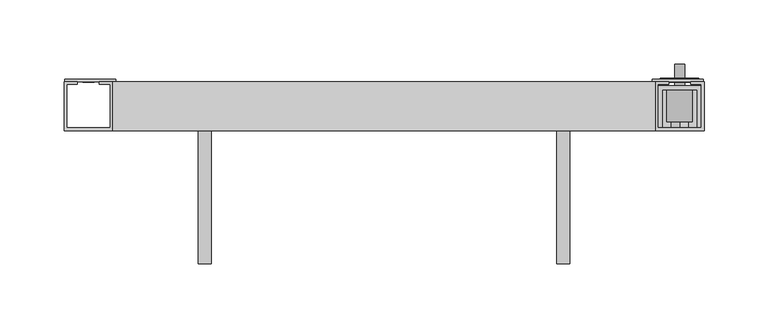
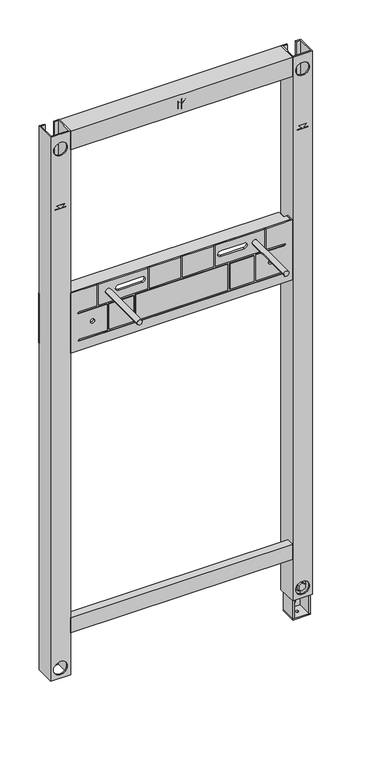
"""IFC4 building model written with IfcOpenShell, lengths in millimetres: flow terminal geometry, nextVIT Waschtisch-Element Wasserzählerstrecke WZ2 Rotguss : nextVIT Waschtisch-Element Wasserzählerstrecke WZ2 Rotguss."""

from ifc_helpers import new_model, si_unit, point, frame, frame_2d, origin, place, context, project, spatial, polyline, circle_curve, trimmed, segment, composite_curve, outline, extrude, source, transform, mapped, element, save
from ifc_brep_helpers import plane_surface, revolved_surface, advanced_brep


def flow_terminal_da6a648a(model_context):
    return source(origin(), model_context, "Body", "SolidModel", [
        advanced_brep(
        [(244.6, -97.1, 363.5), (247.6, -97.1, 363.5), (247.6, -64.9, 363.5), (214.4, -64.9, 363.5), (214.4, -97.1, 363.5), (217.4, -97.1, 363.5), (217.4, -67.9, 363.5), (244.6, -67.9, 363.5), (244.6, -97.1, 13.5), (244.6, -67.9, 13.5), (217.4, -67.9, 13.5), (217.4, -97.1, 13.5), (214.4, -97.1, 13.5), (214.4, -64.9, 13.5), (247.6, -64.9, 13.5), (247.6, -97.1, 13.5), (226.5, -64.9, 23.6801435), (235.5, -64.9, 23.6801435), (226.0, -64.9, 37.7), (236.0, -64.9, 37.7), (236.0, -64.9, 335.5), (226.0, -64.9, 335.5), (235.5, -67.9, 23.6801435), (226.5, -67.9, 23.6801435), (226.0, -67.9, 335.5), (236.0, -67.9, 335.5), (236.0, -67.9, 37.7), (226.0, -67.9, 37.7)],
        [
            (0, 1),
            (1, 2),
            (2, 3),
            (3, 4),
            (4, 5),
            (5, 6),
            (6, 7),
            (7, 0),
            (8, 9),
            (9, 10),
            (10, 11),
            (11, 12),
            (12, 13),
            (13, 14),
            (14, 15),
            (15, 8),
            (3, 13),
            (12, 4),
            (2, 14),
            (16, 17, circle_curve(frame((231.0, -64.9, 23.6801435), z_axis=(0.0, -1.0, 0.0), x_axis=(1.0, 0.0, 0.0)), 4.5)),
            (17, 16, circle_curve(frame((231.0, -64.9, 23.6801435), z_axis=(0.0, -1.0, 0.0), x_axis=(1.0, 0.0, 0.0)), 4.5)),
            (18, 19, circle_curve(frame((231.0, -64.9, 37.7), z_axis=(0.0, -1.0, 0.0), x_axis=(1.0, 0.0, 0.0)), 5.0)),
            (19, 20),
            (20, 21, circle_curve(frame((231.0, -64.9, 335.5), z_axis=(0.0, -1.0, 0.0), x_axis=(1.0, 0.0, 0.0)), 5.0)),
            (21, 18),
            (1, 15),
            (0, 8),
            (7, 9),
            (6, 10),
            (22, 23, circle_curve(frame((231.0, -67.9, 23.6801435), z_axis=(0.0, 1.0, 0.0), x_axis=(1.0, 0.0, 0.0)), 4.5)),
            (23, 22, circle_curve(frame((231.0, -67.9, 23.6801435), z_axis=(0.0, 1.0, 0.0), x_axis=(1.0, 0.0, 0.0)), 4.5)),
            (24, 25, circle_curve(frame((231.0, -67.9, 335.5), z_axis=(0.0, 1.0, 0.0), x_axis=(1.0, 0.0, 0.0)), 5.0)),
            (25, 26),
            (26, 27, circle_curve(frame((231.0, -67.9, 37.7), z_axis=(0.0, 1.0, 0.0), x_axis=(1.0, 0.0, 0.0)), 5.0)),
            (27, 24),
            (5, 11),
            (23, 16),
            (17, 22),
            (27, 18),
            (21, 24),
            (20, 25),
            (19, 26),
        ],
        [
            plane_surface(frame((244.6, -97.1, 363.5), z_axis=(0.0, 0.0, 1.0), x_axis=(0.0, 1.0, 0.0))),
            plane_surface(frame((244.6, -97.1, 13.5), z_axis=(0.0, 0.0, -1.0), x_axis=(0.0, -1.0, 0.0))),
            plane_surface(frame((214.4, -97.1, 363.5), z_axis=(-1.0, 0.0, 0.0), x_axis=(0.0, 0.0, -1.0))),
            plane_surface(frame((214.4, -64.9, 363.5), z_axis=(0.0, 1.0, 0.0), x_axis=(0.0, 0.0, -1.0))),
            plane_surface(frame((247.6, -64.9, 363.5), z_axis=(1.0, 0.0, 0.0), x_axis=(0.0, 0.0, -1.0))),
            plane_surface(frame((247.6, -97.1, 363.5), z_axis=(0.0, -1.0, 0.0), x_axis=(0.0, 0.0, -1.0))),
            plane_surface(frame((244.6, -97.1, 363.5), z_axis=(-1.0, 0.0, 0.0), x_axis=(0.0, 0.0, -1.0))),
            plane_surface(frame((244.6, -67.9, 363.5), z_axis=(0.0, -1.0, 0.0), x_axis=(0.0, 0.0, -1.0))),
            plane_surface(frame((217.4, -67.9, 363.5), z_axis=(1.0, 0.0, 0.0), x_axis=(0.0, 0.0, -1.0))),
            plane_surface(frame((217.4, -97.1, 363.5), z_axis=(0.0, -1.0, 0.0), x_axis=(0.0, 0.0, -1.0))),
            revolved_surface(polyline([(235.5, -67.9, 23.6801435), (235.5, -64.9, 23.6801435)]), (231.0, -67.9, 23.6801435), (0.0, -1.0, 0.0)),
            plane_surface(frame((226.0, -67.9, 37.7), z_axis=(1.0, 0.0, 0.0), x_axis=(0.0, 1.0, 0.0))),
            revolved_surface(polyline([(236.0, -67.9, 335.5), (236.0, -64.9, 335.5)]), (231.0, -67.9, 335.5), (0.0, -1.0, 0.0)),
            plane_surface(frame((236.0, -67.9, 335.5), z_axis=(-1.0, 0.0, 0.0), x_axis=(0.0, 1.0, 0.0))),
            revolved_surface(polyline([(236.0, -67.9, 37.7), (236.0, -64.9, 37.7)]), (231.0, -67.9, 37.7), (0.0, -1.0, 0.0)),
        ],
        [
            (0, [[1, 2, 3, 4, 5, 6, 7, 8]]),
            (1, [[9, 10, 11, 12, 13, 14, 15, 16]]),
            (2, [[17, -13, 18, -4]]),
            (3, [[19, -14, -17, -3], [20, 21], [22, 23, 24, 25]]),
            (4, [[26, -15, -19, -2]]),
            (5, [[27, -16, -26, -1]]),
            (6, [[28, -9, -27, -8]]),
            (7, [[29, -10, -28, -7], [30, 31], [32, 33, 34, 35]]),
            (8, [[36, -11, -29, -6]]),
            (9, [[-18, -12, -36, -5]]),
            (10, [[-31, 37, -21, 38]]),
            (10, [[-20, -37, -30, -38]]),
            (11, [[-35, 39, -25, 40]]),
            (12, [[-24, 41, -32, -40]]),
            (13, [[-23, 42, -33, -41]]),
            (14, [[-34, -42, -22, -39]]),
        ],
    ),
        extrude(outline(polyline([(214.4, -97.1), (214.4, -64.9), (247.6, -64.9), (247.6, -97.1), (214.4, -97.1)]), holes=[composite_curve([segment(trimmed(circle_curve(frame_2d((231.0, -81.9)), 2.5), [point((228.5, -81.9))], [point((233.5, -81.9))], True, "CARTESIAN"), True, "CONTINUOUS"), segment(trimmed(circle_curve(frame_2d((231.0, -81.9)), 2.5), [point((233.5, -81.9))], [point((228.5, -81.9))], True, "CARTESIAN"), True, "CONTINUOUS")], self_intersect=False)]), frame((0.0, 0.0, 10.5), z_axis=(0.0, 0.0, 1.0), x_axis=(1.0, 0.0, 0.0)), (0.0, 0.0, 1.0), 3.0),
        extrude(outline(composite_curve([segment(trimmed(circle_curve(frame_2d((72.2, 231.0)), 4.0), [point((72.2, 235.0))], [point((72.2, 227.0))], False, "CARTESIAN"), True, "CONTINUOUS"), segment(trimmed(circle_curve(frame_2d((72.2, 231.0)), 4.0), [point((72.2, 227.0))], [point((72.2, 235.0))], False, "CARTESIAN"), True, "CONTINUOUS")], self_intersect=False)), frame((0.0, -67.0, 0.0), z_axis=(0.0, 1.0, 0.0), x_axis=(0.0, 0.0, 1.0)), (0.0, 0.0, 1.0), 19.0),
        extrude(outline(polyline([(246.0, -59.0), (246.0, -62.0), (216.0, -62.0), (216.0, -59.0), (246.0, -59.0)])), frame((0.0, 0.0, 52.2), z_axis=(0.0, 0.0, 1.0), x_axis=(1.0, 0.0, 0.0)), (0.0, 0.0, 1.0), 40.0),
        extrude(outline(composite_curve([segment(trimmed(circle_curve(frame_2d((72.2, 231.0)), 10.0), [point((72.2, 241.0))], [point((72.2, 221.0))], False, "CARTESIAN"), True, "CONTINUOUS"), segment(trimmed(circle_curve(frame_2d((72.2, 231.0)), 10.0), [point((72.2, 221.0))], [point((72.2, 241.0))], False, "CARTESIAN"), True, "CONTINUOUS")], self_intersect=False)), frame((0.0, -93.0, 0.0), z_axis=(0.0, 1.0, 0.0), x_axis=(0.0, 0.0, 1.0)), (0.0, 0.0, 1.0), 26.0),
        extrude(outline(polyline([(79.7055535, 231.0), (75.9527767, 224.5), (68.4472233, 224.5), (64.6944465, 231.0), (68.4472233, 237.5), (75.9527767, 237.5), (79.7055535, 231.0)])), frame((0.0, -98.3, 0.0), z_axis=(0.0, 1.0, 0.0), x_axis=(0.0, 0.0, 1.0)), (0.0, 0.0, 1.0), 5.3),
        extrude(outline(polyline([(-98.0, 1145.5), (-98.0, 1109.5), (-100.0, 1109.5), (-100.0, 1147.5), (-62.0, 1147.5), (-62.0, 1145.5), (-98.0, 1145.5)])), frame((-212.0, 0.0, 0.0), z_axis=(1.0, 0.0, 0.0), x_axis=(0.0, 1.0, 0.0)), (0.0, 0.0, 1.0), 424.0),
        extrude(outline(polyline([(998.0, -221.0), (998.8, -221.0), (998.8, -230.2), (1005.5, -223.5), (1005.5, -238.5), (998.8, -231.8), (998.8, -240.9917762), (998.0, -240.9917762), (998.0, -221.0)])), frame((0.0, -100.0390625, 0.0), z_axis=(0.0, 1.0, 0.0), x_axis=(0.0, 0.0, 1.0)), (0.0, 0.0, 1.0), 0.8),
        extrude(outline(polyline([(998.0, 241.0), (998.8, 241.0), (998.8, 231.8), (1005.5, 238.5), (1005.5, 223.5), (998.8, 230.2), (998.8, 221.0082238), (998.0, 221.0082238), (998.0, 241.0)])), frame((0.0, -100.0390625, 0.0), z_axis=(0.0, 1.0, 0.0), x_axis=(0.0, 0.0, 1.0)), (0.0, 0.0, 1.0), 0.8),
        extrude(outline(polyline([(1127.6958881, 0.4), (1120.9958881, 7.1), (1135.9958881, 7.1), (1129.2958881, 0.4), (1138.4958881, 0.4), (1138.4958881, -0.4), (1129.2958881, -0.4), (1135.9958881, -7.1), (1120.9958881, -7.1), (1127.6958881, -0.4), (1118.5041119, -0.4), (1118.5041119, 0.4), (1127.6958881, 0.4)])), frame((0.0, -100.0390625, 0.0), z_axis=(0.0, 1.0, 0.0), x_axis=(0.0, 0.0, 1.0)), (0.0, 0.0, 1.0), 0.8),
        extrude(outline(polyline([(-100.0, 166.5), (-85.0, 166.5), (-85.0, 159.5), (-86.5, 159.5), (-86.5, 165.0), (-98.5, 165.0), (-98.5, 138.0), (-86.5, 138.0), (-86.5, 143.5), (-85.0, 143.5), (-85.0, 136.5), (-100.0, 136.5), (-100.0, 166.5)])), frame((-212.0, 0.0, 0.0), z_axis=(1.0, 0.0, 0.0), x_axis=(0.0, 1.0, 0.0)), (0.0, 0.0, 1.0), 424.0),
        extrude(outline(polyline([(202.6185808, -75.0), (202.6185808, -85.0), (209.5, -85.0), (209.5, -96.5), (-209.5, -96.5), (-209.5, -85.0), (-202.6185808, -85.0), (-202.6185808, -75.0), (202.6185808, -75.0)])), frame((0.0, 0.0, 700.0), z_axis=(0.0, 0.0, 1.0), x_axis=(1.0, 0.0, 0.0)), (0.0, 0.0, 1.0), 2.0),
        extrude(outline(polyline([(209.5, -96.5), (-209.5, -96.5), (-209.5, -85.0), (-202.9917369, -85.0), (-202.9917369, -70.0), (202.9917369, -70.0), (202.9917369, -85.0), (209.5, -85.0), (209.5, -96.5)])), frame((0.0, 0.0, 818.0), z_axis=(0.0, 0.0, 1.0), x_axis=(1.0, 0.0, 0.0)), (0.0, 0.0, 1.0), 2.0),
        extrude(outline(composite_curve([segment(trimmed(circle_curve(frame_2d((800.0, -140.0)), 5.0), [point((800.0, -135.0))], [point((800.0, -145.0))], False, "CARTESIAN"), True, "CONTINUOUS"), segment(trimmed(circle_curve(frame_2d((800.0, -140.0)), 5.0), [point((800.0, -145.0))], [point((800.0, -135.0))], False, "CARTESIAN"), True, "CONTINUOUS")], self_intersect=False)), frame((0.0, -204.0, 0.0), z_axis=(0.0, 1.0, 0.0), x_axis=(0.0, 0.0, 1.0)), (0.0, 0.0, 1.0), 140.0),
        extrude(outline(composite_curve([segment(trimmed(circle_curve(frame_2d((800.0, 140.0)), 5.0), [point((800.0, 145.0))], [point((800.0, 135.0))], False, "CARTESIAN"), True, "CONTINUOUS"), segment(trimmed(circle_curve(frame_2d((800.0, 140.0)), 5.0), [point((800.0, 135.0))], [point((800.0, 145.0))], False, "CARTESIAN"), True, "CONTINUOUS")], self_intersect=False)), frame((0.0, -204.0, 0.0), z_axis=(0.0, 1.0, 0.0), x_axis=(0.0, 0.0, 1.0)), (0.0, 0.0, 1.0), 140.0),
        advanced_brep(
        [(209.5, -96.5, 820.0), (-209.5, -96.5, 820.0), (-209.5, -85.0, 820.0), (-211.5, -85.0, 820.0), (-211.5, -100.0, 820.0), (-162.0, -100.0, 820.0), (-162.0, -98.5, 820.0), (-158.0, -98.5, 820.0), (-158.0, -100.0, 820.0), (-65.0, -100.0, 820.0), (-65.0, -98.5, 820.0), (-61.0, -98.5, 820.0), (-61.0, -100.0, 820.0), (-2.0, -100.0, 820.0), (-2.0, -98.5, 820.0), (2.0, -98.5, 820.0), (2.0, -100.0, 820.0), (61.0, -100.0, 820.0), (61.0, -98.5, 820.0), (65.0, -98.5, 820.0), (65.0, -100.0, 820.0), (158.0, -100.0, 820.0), (158.0, -98.5, 820.0), (162.0, -98.5, 820.0), (162.0, -100.0, 820.0), (211.5, -100.0, 820.0), (211.5, -85.0, 820.0), (209.5, -85.0, 820.0), (211.5, -100.0, 700.0), (-211.5, -100.0, 700.0), (-211.5, -85.0, 700.0), (-209.5, -85.0, 700.0), (-209.5, -96.5, 700.0), (209.5, -96.5, 700.0), (209.5, -85.0, 700.0), (211.5, -85.0, 700.0), (209.5, -85.0, 810.0), (209.5, -60.0, 810.0), (209.5, -60.0, 710.0), (209.5, -85.0, 710.0), (-166.0, -96.5, 750.0), (-174.0, -96.5, 750.0), (-135.75, -96.5, 800.0), (-144.25, -96.5, 800.0), (-120.0, -96.5, 805.5), (-120.0, -96.5, 794.5), (-75.0, -96.5, 794.5), (-75.0, -96.5, 805.5), (75.0, -96.5, 805.5), (75.0, -96.5, 794.5), (120.0, -96.5, 794.5), (120.0, -96.5, 805.5), (144.25, -96.5, 800.0), (135.75, -96.5, 800.0), (174.0, -96.5, 750.0), (166.0, -96.5, 750.0), (-209.5, -85.0, 710.0), (-209.5, -60.0, 710.0), (-209.5, -60.0, 810.0), (-209.5, -85.0, 810.0), (-249.5, -60.0, 810.0), (-249.5, -60.0, 710.0), (-226.5, -60.0, 745.0), (-235.5, -60.0, 745.0), (-249.5, -62.0, 810.0), (-249.5, -62.0, 710.0), (-211.5, -62.0, 810.0), (-211.5, -62.0, 710.0), (-235.5, -62.0, 745.0), (-226.5, -62.0, 745.0), (-211.5, -85.0, 810.0), (-211.5, -85.0, 710.0), (-158.0, -100.0, 778.0), (-65.0, -100.0, 778.0), (-144.25, -100.0, 800.0), (-135.75, -100.0, 800.0), (-120.0, -100.0, 794.5), (-120.0, -100.0, 805.5), (-75.0, -100.0, 805.5), (-75.0, -100.0, 794.5), (-61.0, -100.0, 778.0), (-2.0, -100.0, 778.0), (2.0, -100.0, 778.0), (61.0, -100.0, 778.0), (65.0, -100.0, 778.0), (158.0, -100.0, 778.0), (75.0, -100.0, 794.5), (75.0, -100.0, 805.5), (120.0, -100.0, 805.5), (120.0, -100.0, 794.5), (135.75, -100.0, 800.0), (144.25, -100.0, 800.0), (162.0, -100.0, 778.0), (196.0, -100.0, 778.0), (196.0, -100.0, 774.0), (142.0, -100.0, 774.0), (142.0, -100.0, 722.0), (196.0, -100.0, 722.0), (196.0, -100.0, 718.0), (-196.0, -100.0, 718.0), (-196.0, -100.0, 722.0), (-142.0, -100.0, 722.0), (-142.0, -100.0, 774.0), (-196.0, -100.0, 774.0), (-196.0, -100.0, 778.0), (-162.0, -100.0, 778.0), (-174.0, -100.0, 750.0), (-166.0, -100.0, 750.0), (166.0, -100.0, 750.0), (174.0, -100.0, 750.0), (-138.0039095, -100.0, 721.9957201), (-91.9961874, -100.0, 721.9957201), (-91.9961874, -100.0, 774.0041923), (-138.0039095, -100.0, 774.0041923), (-88.0041923, -100.0, 774.0), (-88.0041923, -100.0, 721.9960905), (88.0, -100.0, 721.9960905), (88.0, -100.0, 774.0), (92.0, -100.0, 721.9957201), (138.0038126, -100.0, 721.9957201), (138.0038126, -100.0, 774.0), (92.0, -100.0, 774.0), (211.5, -85.0, 710.0), (211.5, -62.0, 710.0), (211.5, -62.0, 810.0), (211.5, -85.0, 810.0), (249.5, -62.0, 810.0), (249.5, -62.0, 710.0), (226.5, -62.0, 745.0), (235.5, -62.0, 745.0), (249.5, -60.0, 810.0), (249.5, -60.0, 710.0), (235.5, -60.0, 745.0), (226.5, -60.0, 745.0), (-196.0, -98.5, 778.0), (-196.0, -98.5, 774.0), (-142.0, -98.5, 774.0), (-142.0, -98.5, 722.0), (-196.0, -98.5, 722.0), (-196.0, -98.5, 718.0), (196.0, -98.5, 718.0), (196.0, -98.5, 722.0), (142.0, -98.5, 722.0), (142.0, -98.5, 774.0), (196.0, -98.5, 774.0), (196.0, -98.5, 778.0), (162.0, -98.5, 778.0), (158.0, -98.5, 778.0), (65.0, -98.5, 778.0), (61.0, -98.5, 778.0), (2.0, -98.5, 778.0), (-2.0, -98.5, 778.0), (-61.0, -98.5, 778.0), (-65.0, -98.5, 778.0), (-158.0, -98.5, 778.0), (-162.0, -98.5, 778.0), (-138.0039095, -98.5, 721.9957201), (-138.0039095, -98.5, 774.0041923), (-91.9961874, -98.5, 774.0041923), (-91.9961874, -98.5, 721.9957201), (-88.0041923, -98.5, 774.0), (88.0, -98.5, 774.0), (88.0, -98.5, 721.9960905), (-88.0041923, -98.5, 721.9960905), (92.0, -98.5, 721.9957201), (92.0, -98.5, 774.0), (138.0038126, -98.5, 774.0), (138.0038126, -98.5, 721.9957201)],
        [
            (0, 1),
            (1, 2),
            (2, 3),
            (3, 4),
            (4, 5),
            (5, 6),
            (6, 7),
            (7, 8),
            (8, 9),
            (9, 10),
            (10, 11),
            (11, 12),
            (12, 13),
            (13, 14),
            (14, 15),
            (15, 16),
            (16, 17),
            (17, 18),
            (18, 19),
            (19, 20),
            (20, 21),
            (21, 22),
            (22, 23),
            (23, 24),
            (24, 25),
            (25, 26),
            (26, 27),
            (27, 0),
            (28, 29),
            (29, 30),
            (30, 31),
            (31, 32),
            (32, 33),
            (33, 34),
            (34, 35),
            (35, 28),
            (33, 0),
            (27, 36),
            (36, 37),
            (37, 38),
            (38, 39),
            (39, 34),
            (32, 1),
            (40, 41, circle_curve(frame((-170.0, -96.5, 750.0), z_axis=(0.0, -1.0, 0.0), x_axis=(1.0, 0.0, 0.0)), 4.0)),
            (41, 40, circle_curve(frame((-170.0, -96.5, 750.0), z_axis=(0.0, -1.0, 0.0), x_axis=(1.0, 0.0, 0.0)), 4.0)),
            (42, 43, circle_curve(frame((-140.0, -96.5, 800.0), z_axis=(0.0, -1.0, 0.0), x_axis=(1.0, 0.0, 0.0)), 4.25)),
            (43, 42, circle_curve(frame((-140.0, -96.5, 800.0), z_axis=(0.0, -1.0, 0.0), x_axis=(1.0, 0.0, 0.0)), 4.25)),
            (44, 45, circle_curve(frame((-120.0, -96.5, 800.0), z_axis=(0.0, -1.0, 0.0), x_axis=(1.0, 0.0, 0.0)), 5.5)),
            (45, 46),
            (46, 47, circle_curve(frame((-75.0, -96.5, 800.0), z_axis=(0.0, -1.0, 0.0), x_axis=(1.0, 0.0, 0.0)), 5.5)),
            (47, 44),
            (48, 49, circle_curve(frame((75.0, -96.5, 800.0), z_axis=(0.0, -1.0, 0.0), x_axis=(1.0, 0.0, 0.0)), 5.5)),
            (49, 50),
            (50, 51, circle_curve(frame((120.0, -96.5, 800.0), z_axis=(0.0, -1.0, 0.0), x_axis=(1.0, 0.0, 0.0)), 5.5)),
            (51, 48),
            (52, 53, circle_curve(frame((140.0, -96.5, 800.0), z_axis=(0.0, -1.0, 0.0), x_axis=(1.0, 0.0, 0.0)), 4.25)),
            (53, 52, circle_curve(frame((140.0, -96.5, 800.0), z_axis=(0.0, -1.0, 0.0), x_axis=(1.0, 0.0, 0.0)), 4.25)),
            (54, 55, circle_curve(frame((170.0, -96.5, 750.0), z_axis=(0.0, -1.0, 0.0), x_axis=(1.0, 0.0, 0.0)), 4.0)),
            (55, 54, circle_curve(frame((170.0, -96.5, 750.0), z_axis=(0.0, -1.0, 0.0), x_axis=(1.0, 0.0, 0.0)), 4.0)),
            (31, 56),
            (56, 57),
            (57, 58),
            (58, 59),
            (59, 2),
            (60, 58),
            (57, 61),
            (61, 60),
            (62, 63, circle_curve(frame((-231.0, -60.0, 745.0), z_axis=(0.0, -1.0, 0.0), x_axis=(1.0, 0.0, 0.0)), 4.5)),
            (63, 62, circle_curve(frame((-231.0, -60.0, 745.0), z_axis=(0.0, -1.0, 0.0), x_axis=(1.0, 0.0, 0.0)), 4.5)),
            (64, 60),
            (61, 65),
            (65, 64),
            (66, 64),
            (65, 67),
            (67, 66),
            (68, 69, circle_curve(frame((-231.0, -62.0, 745.0), z_axis=(0.0, 1.0, 0.0), x_axis=(1.0, 0.0, 0.0)), 4.5)),
            (69, 68, circle_curve(frame((-231.0, -62.0, 745.0), z_axis=(0.0, 1.0, 0.0), x_axis=(1.0, 0.0, 0.0)), 4.5)),
            (29, 4),
            (3, 70),
            (70, 66),
            (67, 71),
            (71, 30),
            (8, 72),
            (72, 73),
            (73, 9),
            (74, 75, circle_curve(frame((-140.0, -100.0, 800.0), z_axis=(0.0, 1.0, 0.0), x_axis=(1.0, 0.0, 0.0)), 4.25)),
            (75, 74, circle_curve(frame((-140.0, -100.0, 800.0), z_axis=(0.0, 1.0, 0.0), x_axis=(1.0, 0.0, 0.0)), 4.25)),
            (76, 77, circle_curve(frame((-120.0, -100.0, 800.0), z_axis=(0.0, 1.0, 0.0), x_axis=(1.0, 0.0, 0.0)), 5.5)),
            (77, 78),
            (78, 79, circle_curve(frame((-75.0, -100.0, 800.0), z_axis=(0.0, 1.0, 0.0), x_axis=(1.0, 0.0, 0.0)), 5.5)),
            (79, 76),
            (12, 80),
            (80, 81),
            (81, 13),
            (16, 82),
            (82, 83),
            (83, 17),
            (20, 84),
            (84, 85),
            (85, 21),
            (86, 87, circle_curve(frame((75.0, -100.0, 800.0), z_axis=(0.0, 1.0, 0.0), x_axis=(1.0, 0.0, 0.0)), 5.5)),
            (87, 88),
            (88, 89, circle_curve(frame((120.0, -100.0, 800.0), z_axis=(0.0, 1.0, 0.0), x_axis=(1.0, 0.0, 0.0)), 5.5)),
            (89, 86),
            (90, 91, circle_curve(frame((140.0, -100.0, 800.0), z_axis=(0.0, 1.0, 0.0), x_axis=(1.0, 0.0, 0.0)), 4.25)),
            (91, 90, circle_curve(frame((140.0, -100.0, 800.0), z_axis=(0.0, 1.0, 0.0), x_axis=(1.0, 0.0, 0.0)), 4.25)),
            (28, 25),
            (24, 92),
            (92, 93),
            (93, 94, circle_curve(frame((196.0, -100.0, 776.0), z_axis=(0.0, 1.0, 0.0), x_axis=(1.0, 0.0, 0.0)), 2.0)),
            (94, 95),
            (95, 96),
            (96, 97),
            (97, 98, circle_curve(frame((196.0, -100.0, 720.0), z_axis=(0.0, 1.0, 0.0), x_axis=(1.0, 0.0, 0.0)), 2.0)),
            (98, 99),
            (99, 100, circle_curve(frame((-196.0, -100.0, 720.0), z_axis=(0.0, 1.0, 0.0), x_axis=(1.0, 0.0, 0.0)), 2.0)),
            (100, 101),
            (101, 102),
            (102, 103),
            (103, 104, circle_curve(frame((-196.0, -100.0, 776.0), z_axis=(0.0, 1.0, 0.0), x_axis=(1.0, 0.0, 0.0)), 2.0)),
            (104, 105),
            (105, 5),
            (106, 107, circle_curve(frame((-170.0, -100.0, 750.0), z_axis=(0.0, 1.0, 0.0), x_axis=(1.0, 0.0, 0.0)), 4.0)),
            (107, 106, circle_curve(frame((-170.0, -100.0, 750.0), z_axis=(0.0, 1.0, 0.0), x_axis=(1.0, 0.0, 0.0)), 4.0)),
            (108, 109, circle_curve(frame((170.0, -100.0, 750.0), z_axis=(0.0, 1.0, 0.0), x_axis=(1.0, 0.0, 0.0)), 4.0)),
            (109, 108, circle_curve(frame((170.0, -100.0, 750.0), z_axis=(0.0, 1.0, 0.0), x_axis=(1.0, 0.0, 0.0)), 4.0)),
            (110, 111),
            (111, 112),
            (112, 113),
            (113, 110),
            (114, 115),
            (115, 116),
            (116, 117),
            (117, 114),
            (118, 119),
            (119, 120),
            (120, 121),
            (121, 118),
            (35, 122),
            (122, 123),
            (123, 124),
            (124, 125),
            (125, 26),
            (126, 124),
            (123, 127),
            (127, 126),
            (128, 129, circle_curve(frame((231.0, -62.0, 745.0), z_axis=(0.0, 1.0, 0.0), x_axis=(1.0, 0.0, 0.0)), 4.5)),
            (129, 128, circle_curve(frame((231.0, -62.0, 745.0), z_axis=(0.0, 1.0, 0.0), x_axis=(1.0, 0.0, 0.0)), 4.5)),
            (130, 126),
            (127, 131),
            (131, 130),
            (37, 130),
            (131, 38),
            (132, 133, circle_curve(frame((231.0, -60.0, 745.0), z_axis=(0.0, -1.0, 0.0), x_axis=(1.0, 0.0, 0.0)), 4.5)),
            (133, 132, circle_curve(frame((231.0, -60.0, 745.0), z_axis=(0.0, -1.0, 0.0), x_axis=(1.0, 0.0, 0.0)), 4.5)),
            (68, 63),
            (62, 69),
            (106, 41),
            (40, 107),
            (74, 43),
            (42, 75),
            (76, 45),
            (44, 77),
            (47, 78),
            (46, 79),
            (86, 49),
            (48, 87),
            (51, 88),
            (50, 89),
            (90, 53),
            (52, 91),
            (108, 55),
            (54, 109),
            (128, 133),
            (132, 129),
            (36, 125),
            (70, 59),
            (122, 39),
            (56, 71),
            (134, 135, circle_curve(frame((-196.0, -98.5, 776.0), z_axis=(0.0, -1.0, 0.0), x_axis=(1.0, 0.0, 0.0)), 2.0)),
            (135, 136),
            (136, 137),
            (137, 138),
            (138, 139, circle_curve(frame((-196.0, -98.5, 720.0), z_axis=(0.0, -1.0, 0.0), x_axis=(1.0, 0.0, 0.0)), 2.0)),
            (139, 140),
            (140, 141, circle_curve(frame((196.0, -98.5, 720.0), z_axis=(0.0, -1.0, 0.0), x_axis=(1.0, 0.0, 0.0)), 2.0)),
            (141, 142),
            (142, 143),
            (143, 144),
            (144, 145, circle_curve(frame((196.0, -98.5, 776.0), z_axis=(0.0, -1.0, 0.0), x_axis=(1.0, 0.0, 0.0)), 2.0)),
            (145, 146),
            (146, 23),
            (22, 147),
            (147, 148),
            (148, 19),
            (18, 149),
            (149, 150),
            (150, 15),
            (14, 151),
            (151, 152),
            (152, 11),
            (10, 153),
            (153, 154),
            (154, 7),
            (6, 155),
            (155, 134),
            (156, 157),
            (157, 158),
            (158, 159),
            (159, 156),
            (160, 161),
            (161, 162),
            (162, 163),
            (163, 160),
            (164, 165),
            (165, 166),
            (166, 167),
            (167, 164),
            (155, 105),
            (104, 134),
            (154, 72),
            (153, 73),
            (152, 80),
            (151, 81),
            (150, 82),
            (149, 83),
            (148, 84),
            (147, 85),
            (146, 92),
            (145, 93),
            (144, 94),
            (143, 95),
            (142, 96),
            (141, 97),
            (140, 98),
            (139, 99),
            (138, 100),
            (137, 101),
            (136, 102),
            (135, 103),
            (159, 111),
            (110, 156),
            (158, 112),
            (157, 113),
            (163, 115),
            (114, 160),
            (162, 116),
            (161, 117),
            (167, 119),
            (118, 164),
            (166, 120),
            (165, 121),
        ],
        [
            plane_surface(frame((209.5, -96.5, 820.0), z_axis=(0.0, 0.0, 1.0), x_axis=(0.0, -1.0, 0.0))),
            plane_surface(frame((209.5, -96.5, 700.0), z_axis=(0.0, 0.0, -1.0), x_axis=(0.0, 1.0, 0.0))),
            plane_surface(frame((209.5, -60.0, 820.0), z_axis=(-1.0, 0.0, 0.0), x_axis=(0.0, 0.0, -1.0))),
            plane_surface(frame((209.5, -96.5, 820.0), z_axis=(0.0, 1.0, 0.0), x_axis=(0.0, 0.0, -1.0))),
            plane_surface(frame((-209.5, -96.5, 820.0), z_axis=(1.0, 0.0, 0.0), x_axis=(0.0, 0.0, -1.0))),
            plane_surface(frame((-209.5, -60.0, 820.0), z_axis=(0.0, 1.0, 0.0), x_axis=(0.0, 0.0, -1.0))),
            plane_surface(frame((-249.5, -60.0, 820.0), z_axis=(-1.0, 0.0, 0.0), x_axis=(0.0, 0.0, -1.0))),
            plane_surface(frame((-249.5, -62.0, 820.0), z_axis=(0.0, -1.0, 0.0), x_axis=(0.0, 0.0, -1.0))),
            plane_surface(frame((-211.5, -62.0, 820.0), z_axis=(-1.0, 0.0, 0.0), x_axis=(0.0, 0.0, -1.0))),
            plane_surface(frame((-211.5, -100.0, 820.0), z_axis=(0.0, -1.0, 0.0), x_axis=(0.0, 0.0, -1.0))),
            plane_surface(frame((211.5, -100.0, 820.0), z_axis=(1.0, 0.0, 0.0), x_axis=(0.0, 0.0, -1.0))),
            plane_surface(frame((211.5, -62.0, 820.0), z_axis=(0.0, -1.0, 0.0), x_axis=(0.0, 0.0, -1.0))),
            plane_surface(frame((249.5, -62.0, 820.0), z_axis=(1.0, 0.0, 0.0), x_axis=(0.0, 0.0, -1.0))),
            plane_surface(frame((249.5, -60.0, 820.0), z_axis=(0.0, 1.0, 0.0), x_axis=(0.0, 0.0, -1.0))),
            revolved_surface(polyline([(-226.5, -60.0, 745.0), (-226.5, -62.0, 745.0)]), (-231.0, -60.0, 745.0), (0.0, 1.0, 0.0)),
            revolved_surface(polyline([(-166.0, -96.5, 750.0), (-166.0, -100.0, 750.0)]), (-170.0, -60.0, 750.0), (0.0, 1.0, 0.0)),
            revolved_surface(polyline([(-135.75, -96.5, 800.0), (-135.75, -100.0, 800.0)]), (-140.0, -60.0, 800.0), (0.0, 1.0, 0.0)),
            revolved_surface(polyline([(-114.5, -96.5, 800.0), (-114.5, -100.0, 800.0)]), (-120.0, -60.0, 800.0), (0.0, 1.0, 0.0)),
            plane_surface(frame((-120.0, -60.0, 805.5), z_axis=(0.0, 0.0, -1.0), x_axis=(0.0, -1.0, 0.0))),
            revolved_surface(polyline([(-69.5, -96.5, 800.0), (-69.5, -100.0, 800.0)]), (-75.0, -60.0, 800.0), (0.0, 1.0, 0.0)),
            plane_surface(frame((-75.0, -60.0, 794.5), z_axis=(0.0, 0.0, 1.0), x_axis=(0.0, -1.0, 0.0))),
            revolved_surface(polyline([(80.5, -96.5, 800.0), (80.5, -100.0, 800.0)]), (75.0, -60.0, 800.0), (0.0, 1.0, 0.0)),
            plane_surface(frame((75.0, -60.0, 805.5), z_axis=(0.0, 0.0, -1.0), x_axis=(0.0, -1.0, 0.0))),
            revolved_surface(polyline([(125.5, -96.5, 800.0), (125.5, -100.0, 800.0)]), (120.0, -60.0, 800.0), (0.0, 1.0, 0.0)),
            plane_surface(frame((120.0, -60.0, 794.5), z_axis=(0.0, 0.0, 1.0), x_axis=(0.0, -1.0, 0.0))),
            revolved_surface(polyline([(144.25, -96.5, 800.0), (144.25, -100.0, 800.0)]), (140.0, -60.0, 800.0), (0.0, 1.0, 0.0)),
            revolved_surface(polyline([(174.0, -96.5, 750.0), (174.0, -100.0, 750.0)]), (170.0, -60.0, 750.0), (0.0, 1.0, 0.0)),
            revolved_surface(polyline([(235.5, -60.0, 745.0), (235.5, -62.0, 745.0)]), (231.0, -60.0, 745.0), (0.0, 1.0, 0.0)),
            plane_surface(frame((249.5, -85.0, 810.0), z_axis=(0.0, 0.0, 1.0), x_axis=(-1.0, 0.0, 0.0))),
            plane_surface(frame((209.5, -85.0, 820.0), z_axis=(0.0, 1.0, 0.0), x_axis=(0.0, 0.0, -1.0))),
            plane_surface(frame((-249.5, -85.0, 820.0), z_axis=(0.0, 1.0, 0.0), x_axis=(0.0, 0.0, -1.0))),
            plane_surface(frame((249.5, -85.0, 710.0), z_axis=(0.0, 0.0, -1.0), x_axis=(1.0, 0.0, 0.0))),
            plane_surface(frame((209.5, -85.0, 710.0), z_axis=(0.0, 1.0, 0.0), x_axis=(0.0, 0.0, -1.0))),
            plane_surface(frame((-249.5, -85.0, 710.0), z_axis=(0.0, 1.0, 0.0), x_axis=(0.0, 0.0, -1.0))),
            plane_surface(frame((0.0, -98.5, 800.0), z_axis=(0.0, -1.0, 0.0), x_axis=(0.0, 0.0, 1.0))),
            plane_surface(frame((-196.0, -98.5, 778.0), z_axis=(0.0, 0.0, -1.0), x_axis=(0.0, -1.0, 0.0))),
            plane_surface(frame((-162.0, -98.5, 778.0), z_axis=(1.0, 0.0, 0.0), x_axis=(0.0, -1.0, 0.0))),
            plane_surface(frame((-158.0, -98.5, 820.0), z_axis=(-1.0, 0.0, 0.0), x_axis=(0.0, -1.0, 0.0))),
            plane_surface(frame((-158.0, -98.5, 778.0), z_axis=(0.0, 0.0, -1.0), x_axis=(0.0, -1.0, 0.0))),
            plane_surface(frame((-65.0, -98.5, 778.0), z_axis=(1.0, 0.0, 0.0), x_axis=(0.0, -1.0, 0.0))),
            plane_surface(frame((-61.0, -98.5, 820.0), z_axis=(-1.0, 0.0, 0.0), x_axis=(0.0, -1.0, 0.0))),
            plane_surface(frame((-61.0, -98.5, 778.0), z_axis=(0.0, 0.0, -1.0), x_axis=(0.0, -1.0, 0.0))),
            plane_surface(frame((-2.0, -98.5, 778.0), z_axis=(1.0, 0.0, 0.0), x_axis=(0.0, -1.0, 0.0))),
            plane_surface(frame((2.0, -98.5, 820.0), z_axis=(-1.0, 0.0, 0.0), x_axis=(0.0, -1.0, 0.0))),
            plane_surface(frame((2.0, -98.5, 778.0), z_axis=(0.0, 0.0, -1.0), x_axis=(0.0, -1.0, 0.0))),
            plane_surface(frame((61.0, -98.5, 778.0), z_axis=(1.0, 0.0, 0.0), x_axis=(0.0, -1.0, 0.0))),
            plane_surface(frame((65.0, -98.5, 820.0), z_axis=(-1.0, 0.0, 0.0), x_axis=(0.0, -1.0, 0.0))),
            plane_surface(frame((65.0, -98.5, 778.0), z_axis=(0.0, 0.0, -1.0), x_axis=(0.0, -1.0, 0.0))),
            plane_surface(frame((158.0, -98.5, 778.0), z_axis=(1.0, 0.0, 0.0), x_axis=(0.0, -1.0, 0.0))),
            plane_surface(frame((162.0, -98.5, 820.0), z_axis=(-1.0, 0.0, 0.0), x_axis=(0.0, -1.0, 0.0))),
            plane_surface(frame((162.0, -98.5, 778.0), z_axis=(0.0, 0.0, -1.0), x_axis=(0.0, -1.0, 0.0))),
            revolved_surface(polyline([(198.0, -98.5, 776.0), (198.0, -100.0, 776.0)]), (196.0, -98.5, 776.0), (0.0, 1.0, 0.0)),
            plane_surface(frame((196.0, -98.5, 774.0), z_axis=(0.0, 0.0, 1.0), x_axis=(0.0, -1.0, 0.0))),
            plane_surface(frame((142.0, -98.5, 774.0), z_axis=(-1.0, 0.0, 0.0), x_axis=(0.0, -1.0, 0.0))),
            plane_surface(frame((142.0, -98.5, 722.0), z_axis=(0.0, 0.0, -1.0), x_axis=(0.0, -1.0, 0.0))),
            revolved_surface(polyline([(198.0, -98.5, 720.0), (198.0, -100.0, 720.0)]), (196.0, -98.5, 720.0), (0.0, 1.0, 0.0)),
            plane_surface(frame((196.0, -98.5, 718.0), z_axis=(0.0, 0.0, 1.0), x_axis=(0.0, -1.0, 0.0))),
            revolved_surface(polyline([(-194.0, -98.5, 720.0), (-194.0, -100.0, 720.0)]), (-196.0, -98.5, 720.0), (0.0, 1.0, 0.0)),
            plane_surface(frame((-196.0, -98.5, 722.0), z_axis=(0.0, 0.0, -1.0), x_axis=(0.0, -1.0, 0.0))),
            plane_surface(frame((-142.0, -98.5, 722.0), z_axis=(1.0, 0.0, 0.0), x_axis=(0.0, -1.0, 0.0))),
            plane_surface(frame((-142.0, -98.5, 774.0), z_axis=(0.0, 0.0, 1.0), x_axis=(0.0, -1.0, 0.0))),
            revolved_surface(polyline([(-194.0, -98.5, 776.0), (-194.0, -100.0, 776.0)]), (-196.0, -98.5, 776.0), (0.0, 1.0, 0.0)),
            plane_surface(frame((-138.0039095, -98.5, 721.9957201), z_axis=(0.0, 0.0, -1.0), x_axis=(0.0, -1.0, 0.0))),
            plane_surface(frame((-91.9961874, -98.5, 721.9957201), z_axis=(1.0, 0.0, 0.0), x_axis=(0.0, -1.0, 0.0))),
            plane_surface(frame((-91.9961874, -98.5, 774.0041923), z_axis=(0.0, 0.0, 1.0), x_axis=(0.0, -1.0, 0.0))),
            plane_surface(frame((-138.0039095, -98.5, 774.0041923), z_axis=(-1.0, 0.0, 0.0), x_axis=(0.0, -1.0, 0.0))),
            plane_surface(frame((-88.0041923, -98.5, 774.0), z_axis=(-1.0, 0.0, 0.0), x_axis=(0.0, -1.0, 0.0))),
            plane_surface(frame((-88.0041923, -98.5, 721.9960905), z_axis=(0.0, 0.0, -1.0), x_axis=(0.0, -1.0, 0.0))),
            plane_surface(frame((88.0, -98.5, 721.9960905), z_axis=(1.0, 0.0, 0.0), x_axis=(0.0, -1.0, 0.0))),
            plane_surface(frame((88.0, -98.5, 774.0), z_axis=(0.0, 0.0, 1.0), x_axis=(0.0, -1.0, 0.0))),
            plane_surface(frame((92.0, -98.5, 721.9957201), z_axis=(0.0, 0.0, -1.0), x_axis=(0.0, -1.0, 0.0))),
            plane_surface(frame((138.0038126, -98.5, 721.9957201), z_axis=(1.0, 0.0, 0.0), x_axis=(0.0, -1.0, 0.0))),
            plane_surface(frame((138.0038126, -98.5, 774.0), z_axis=(0.0, 0.0, 1.0), x_axis=(0.0, -1.0, 0.0))),
            plane_surface(frame((92.0, -98.5, 774.0), z_axis=(-1.0, 0.0, 0.0), x_axis=(0.0, -1.0, 0.0))),
        ],
        [
            (0, [[1, 2, 3, 4, 5, 6, 7, 8, 9, 10, 11, 12, 13, 14, 15, 16, 17, 18, 19, 20, 21, 22, 23, 24, 25, 26, 27, 28]]),
            (1, [[29, 30, 31, 32, 33, 34, 35, 36]]),
            (2, [[37, -28, 38, 39, 40, 41, 42, -34]]),
            (3, [[-1, -37, -33, 43], [44, 45], [46, 47], [48, 49, 50, 51], [52, 53, 54, 55], [56, 57], [58, 59]]),
            (4, [[-43, -32, 60, 61, 62, 63, 64, -2]]),
            (5, [[65, -62, 66, 67], [68, 69]]),
            (6, [[70, -67, 71, 72]]),
            (7, [[73, -72, 74, 75], [76, 77]]),
            (8, [[78, -4, 79, 80, -75, 81, 82, -30]]),
            (9, [[-9, 83, 84, 85], [86, 87], [88, 89, 90, 91]]),
            (9, [[-13, 92, 93, 94]]),
            (9, [[-17, 95, 96, 97]]),
            (9, [[-21, 98, 99, 100], [101, 102, 103, 104], [105, 106]]),
            (9, [[-29, 107, -25, 108, 109, 110, 111, 112, 113, 114, 115, 116, 117, 118, 119, 120, 121, 122, -5, -78], [123, 124], [125, 126]]),
            (9, [[127, 128, 129, 130]]),
            (9, [[131, 132, 133, 134]]),
            (9, [[135, 136, 137, 138]]),
            (10, [[-107, -36, 139, 140, 141, 142, 143, -26]]),
            (11, [[144, -141, 145, 146], [147, 148]]),
            (12, [[149, -146, 150, 151]]),
            (13, [[152, -151, 153, -40], [154, 155]]),
            (14, [[156, -68, 157, -76]]),
            (14, [[-156, -77, -157, -69]]),
            (15, [[158, -44, 159, -123]]),
            (15, [[-158, -124, -159, -45]]),
            (16, [[160, -46, 161, -86]]),
            (16, [[-160, -87, -161, -47]]),
            (17, [[162, -48, 163, -88]]),
            (18, [[-163, -51, 164, -89]]),
            (19, [[-164, -50, 165, -90]]),
            (20, [[-162, -91, -165, -49]]),
            (21, [[166, -52, 167, -101]]),
            (22, [[-167, -55, 168, -102]]),
            (23, [[-168, -54, 169, -103]]),
            (24, [[-166, -104, -169, -53]]),
            (25, [[170, -56, 171, -105]]),
            (25, [[-170, -106, -171, -57]]),
            (26, [[172, -58, 173, -125]]),
            (26, [[-172, -126, -173, -59]]),
            (27, [[174, -154, 175, -147]]),
            (27, [[-174, -148, -175, -155]]),
            (28, [[176, -142, -144, -149, -152, -39]]),
            (28, [[177, -63, -65, -70, -73, -80]]),
            (29, [[-176, -38, -27, -143]]),
            (30, [[-177, -79, -3, -64]]),
            (31, [[178, -41, -153, -150, -145, -140]]),
            (31, [[179, -81, -74, -71, -66, -61]]),
            (32, [[-178, -139, -35, -42]]),
            (33, [[-179, -60, -31, -82]]),
            (34, [[180, 181, 182, 183, 184, 185, 186, 187, 188, 189, 190, 191, 192, -23, 193, 194, 195, -19, 196, 197, 198, -15, 199, 200, 201, -11, 202, 203, 204, -7, 205, 206], [207, 208, 209, 210], [211, 212, 213, 214], [215, 216, 217, 218]]),
            (35, [[-206, 219, -121, 220]]),
            (36, [[-205, -6, -122, -219]]),
            (37, [[-204, 221, -83, -8]]),
            (38, [[-203, 222, -84, -221]]),
            (39, [[-202, -10, -85, -222]]),
            (40, [[-201, 223, -92, -12]]),
            (41, [[-200, 224, -93, -223]]),
            (42, [[-199, -14, -94, -224]]),
            (43, [[-198, 225, -95, -16]]),
            (44, [[-197, 226, -96, -225]]),
            (45, [[-196, -18, -97, -226]]),
            (46, [[-195, 227, -98, -20]]),
            (47, [[-194, 228, -99, -227]]),
            (48, [[-193, -22, -100, -228]]),
            (49, [[-192, 229, -108, -24]]),
            (50, [[-191, 230, -109, -229]]),
            (51, [[-190, 231, -110, -230]]),
            (52, [[-189, 232, -111, -231]]),
            (53, [[-188, 233, -112, -232]]),
            (54, [[-187, 234, -113, -233]]),
            (55, [[-186, 235, -114, -234]]),
            (56, [[-185, 236, -115, -235]]),
            (57, [[-184, 237, -116, -236]]),
            (58, [[-183, 238, -117, -237]]),
            (59, [[-182, 239, -118, -238]]),
            (60, [[-181, 240, -119, -239]]),
            (61, [[-180, -220, -120, -240]]),
            (62, [[-210, 241, -127, 242]]),
            (63, [[-209, 243, -128, -241]]),
            (64, [[-208, 244, -129, -243]]),
            (65, [[-207, -242, -130, -244]]),
            (66, [[-214, 245, -131, 246]]),
            (67, [[-213, 247, -132, -245]]),
            (68, [[-212, 248, -133, -247]]),
            (69, [[-211, -246, -134, -248]]),
            (70, [[-218, 249, -135, 250]]),
            (71, [[-217, 251, -136, -249]]),
            (72, [[-216, 252, -137, -251]]),
            (73, [[-215, -250, -138, -252]]),
        ],
    ),
        advanced_brep(
        [(-250.0, -62.0, 1148.0), (-250.0, -100.0, 1148.0), (-212.0, -100.0, 1148.0), (-212.0, -62.0, 1148.0), (-222.5, -62.0, 1148.0), (-222.5, -64.0, 1148.0), (-214.0, -64.0, 1148.0), (-214.0, -98.0, 1148.0), (-248.0, -98.0, 1148.0), (-248.0, -64.0, 1148.0), (-239.5, -64.0, 1148.0), (-239.5, -62.0, 1148.0), (-250.0, -62.0, 52.0), (-239.5, -62.0, 52.0), (-239.5, -64.0, 52.0), (-248.0, -64.0, 52.0), (-248.0, -98.0, 52.0), (-214.0, -98.0, 52.0), (-214.0, -64.0, 52.0), (-222.5, -64.0, 52.0), (-222.5, -62.0, 52.0), (-212.0, -62.0, 52.0), (-212.0, -100.0, 52.0), (-250.0, -100.0, 52.0), (-218.0, -100.0, 72.0), (-244.0, -100.0, 72.0), (-218.0, -100.0, 1118.0), (-244.0, -100.0, 1118.0), (-244.0, -98.0, 72.0), (-218.0, -98.0, 72.0), (-244.0, -98.0, 1118.0), (-218.0, -98.0, 1118.0)],
        [
            (0, 1),
            (1, 2),
            (2, 3),
            (3, 4),
            (4, 5),
            (5, 6),
            (6, 7),
            (7, 8),
            (8, 9),
            (9, 10),
            (10, 11),
            (11, 0),
            (12, 13),
            (13, 14),
            (14, 15),
            (15, 16),
            (16, 17),
            (17, 18),
            (18, 19),
            (19, 20),
            (20, 21),
            (21, 22),
            (22, 23),
            (23, 12),
            (0, 12),
            (23, 1),
            (22, 2),
            (24, 25, circle_curve(frame((-231.0, -100.0, 72.0), z_axis=(0.0, 1.0, 0.0), x_axis=(1.0, 0.0, 0.0)), 13.0)),
            (25, 24, circle_curve(frame((-231.0, -100.0, 72.0), z_axis=(0.0, 1.0, 0.0), x_axis=(1.0, 0.0, 0.0)), 13.0)),
            (26, 27, circle_curve(frame((-231.0, -100.0, 1118.0), z_axis=(0.0, 1.0, 0.0), x_axis=(1.0, 0.0, 0.0)), 13.0)),
            (27, 26, circle_curve(frame((-231.0, -100.0, 1118.0), z_axis=(0.0, 1.0, 0.0), x_axis=(1.0, 0.0, 0.0)), 13.0)),
            (21, 3),
            (20, 4),
            (19, 5),
            (18, 6),
            (17, 7),
            (16, 8),
            (28, 29, circle_curve(frame((-231.0, -98.0, 72.0), z_axis=(0.0, -1.0, 0.0), x_axis=(1.0, 0.0, 0.0)), 13.0)),
            (29, 28, circle_curve(frame((-231.0, -98.0, 72.0), z_axis=(0.0, -1.0, 0.0), x_axis=(1.0, 0.0, 0.0)), 13.0)),
            (30, 31, circle_curve(frame((-231.0, -98.0, 1118.0), z_axis=(0.0, -1.0, 0.0), x_axis=(1.0, 0.0, 0.0)), 13.0)),
            (31, 30, circle_curve(frame((-231.0, -98.0, 1118.0), z_axis=(0.0, -1.0, 0.0), x_axis=(1.0, 0.0, 0.0)), 13.0)),
            (15, 9),
            (14, 10),
            (13, 11),
            (28, 25),
            (24, 29),
            (30, 27),
            (26, 31),
        ],
        [
            plane_surface(frame((-250.0, -100.0, 1148.0), z_axis=(0.0, 0.0, 1.0), x_axis=(0.0, -1.0, 0.0))),
            plane_surface(frame((-250.0, -100.0, 52.0), z_axis=(0.0, 0.0, -1.0), x_axis=(0.0, 1.0, 0.0))),
            plane_surface(frame((-250.0, -62.0, 1148.0), z_axis=(-1.0, 0.0, 0.0), x_axis=(0.0, 0.0, -1.0))),
            plane_surface(frame((-250.0, -100.0, 1148.0), z_axis=(0.0, -1.0, 0.0), x_axis=(0.0, 0.0, -1.0))),
            plane_surface(frame((-212.0, -100.0, 1148.0), z_axis=(1.0, 0.0, 0.0), x_axis=(0.0, 0.0, -1.0))),
            plane_surface(frame((-212.0, -62.0, 1148.0), z_axis=(0.0, 1.0, 0.0), x_axis=(0.0, 0.0, -1.0))),
            plane_surface(frame((-222.5, -62.0, 1148.0), z_axis=(-1.0, 0.0, 0.0), x_axis=(0.0, 0.0, -1.0))),
            plane_surface(frame((-222.5, -64.0, 1148.0), z_axis=(0.0, -1.0, 0.0), x_axis=(0.0, 0.0, -1.0))),
            plane_surface(frame((-214.0, -64.0, 1148.0), z_axis=(-1.0, 0.0, 0.0), x_axis=(0.0, 0.0, -1.0))),
            plane_surface(frame((-214.0, -98.0, 1148.0), z_axis=(0.0, 1.0, 0.0), x_axis=(0.0, 0.0, -1.0))),
            plane_surface(frame((-248.0, -98.0, 1148.0), z_axis=(1.0, 0.0, 0.0), x_axis=(0.0, 0.0, -1.0))),
            plane_surface(frame((-248.0, -64.0, 1148.0), z_axis=(0.0, -1.0, 0.0), x_axis=(0.0, 0.0, -1.0))),
            plane_surface(frame((-239.5, -64.0, 1148.0), z_axis=(1.0, 0.0, 0.0), x_axis=(0.0, 0.0, -1.0))),
            plane_surface(frame((-239.5, -62.0, 1148.0), z_axis=(0.0, 1.0, 0.0), x_axis=(0.0, 0.0, -1.0))),
            revolved_surface(polyline([(-218.0, -98.0, 72.0), (-218.0, -100.0, 72.0)]), (-231.0, -98.0, 72.0), (0.0, 1.0, 0.0)),
            revolved_surface(polyline([(-218.0, -98.0, 1118.0), (-218.0, -100.0, 1118.0)]), (-231.0, -98.0, 1118.0), (0.0, 1.0, 0.0)),
        ],
        [
            (0, [[1, 2, 3, 4, 5, 6, 7, 8, 9, 10, 11, 12]]),
            (1, [[13, 14, 15, 16, 17, 18, 19, 20, 21, 22, 23, 24]]),
            (2, [[-1, 25, -24, 26]]),
            (3, [[-2, -26, -23, 27], [28, 29], [30, 31]]),
            (4, [[-3, -27, -22, 32]]),
            (5, [[-4, -32, -21, 33]]),
            (6, [[-5, -33, -20, 34]]),
            (7, [[-6, -34, -19, 35]]),
            (8, [[-7, -35, -18, 36]]),
            (9, [[-8, -36, -17, 37], [38, 39], [40, 41]]),
            (10, [[-9, -37, -16, 42]]),
            (11, [[-10, -42, -15, 43]]),
            (12, [[-11, -43, -14, 44]]),
            (13, [[-12, -44, -13, -25]]),
            (14, [[45, -28, 46, -38]]),
            (14, [[-45, -39, -46, -29]]),
            (15, [[47, -30, 48, -40]]),
            (15, [[-47, -41, -48, -31]]),
        ],
    ),
        advanced_brep(
        [(212.0, -62.0, 1148.0), (212.0, -100.0, 1148.0), (250.0, -100.0, 1148.0), (250.0, -62.0, 1148.0), (239.5, -62.0, 1148.0), (239.5, -64.0, 1148.0), (248.0, -64.0, 1148.0), (248.0, -98.0, 1148.0), (214.0, -98.0, 1148.0), (214.0, -64.0, 1148.0), (222.5, -64.0, 1148.0), (222.5, -62.0, 1148.0), (212.0, -62.0, 52.0), (222.5, -62.0, 52.0), (222.5, -64.0, 52.0), (214.0, -64.0, 52.0), (214.0, -98.0, 52.0), (248.0, -98.0, 52.0), (248.0, -64.0, 52.0), (239.5, -64.0, 52.0), (239.5, -62.0, 52.0), (250.0, -62.0, 52.0), (250.0, -100.0, 52.0), (212.0, -100.0, 52.0), (244.0, -100.0, 72.0), (218.0, -100.0, 72.0), (244.0, -100.0, 1118.0), (218.0, -100.0, 1118.0), (218.0, -98.0, 72.0), (244.0, -98.0, 72.0), (218.0, -98.0, 1118.0), (244.0, -98.0, 1118.0)],
        [
            (0, 1),
            (1, 2),
            (2, 3),
            (3, 4),
            (4, 5),
            (5, 6),
            (6, 7),
            (7, 8),
            (8, 9),
            (9, 10),
            (10, 11),
            (11, 0),
            (12, 13),
            (13, 14),
            (14, 15),
            (15, 16),
            (16, 17),
            (17, 18),
            (18, 19),
            (19, 20),
            (20, 21),
            (21, 22),
            (22, 23),
            (23, 12),
            (0, 12),
            (23, 1),
            (22, 2),
            (24, 25, circle_curve(frame((231.0, -100.0, 72.0), z_axis=(0.0, 1.0, 0.0), x_axis=(1.0, 0.0, 0.0)), 13.0)),
            (25, 24, circle_curve(frame((231.0, -100.0, 72.0), z_axis=(0.0, 1.0, 0.0), x_axis=(1.0, 0.0, 0.0)), 13.0)),
            (26, 27, circle_curve(frame((231.0, -100.0, 1118.0), z_axis=(0.0, 1.0, 0.0), x_axis=(1.0, 0.0, 0.0)), 13.0)),
            (27, 26, circle_curve(frame((231.0, -100.0, 1118.0), z_axis=(0.0, 1.0, 0.0), x_axis=(1.0, 0.0, 0.0)), 13.0)),
            (21, 3),
            (20, 4),
            (19, 5),
            (18, 6),
            (17, 7),
            (16, 8),
            (28, 29, circle_curve(frame((231.0, -98.0, 72.0), z_axis=(0.0, -1.0, 0.0), x_axis=(1.0, 0.0, 0.0)), 13.0)),
            (29, 28, circle_curve(frame((231.0, -98.0, 72.0), z_axis=(0.0, -1.0, 0.0), x_axis=(1.0, 0.0, 0.0)), 13.0)),
            (30, 31, circle_curve(frame((231.0, -98.0, 1118.0), z_axis=(0.0, -1.0, 0.0), x_axis=(1.0, 0.0, 0.0)), 13.0)),
            (31, 30, circle_curve(frame((231.0, -98.0, 1118.0), z_axis=(0.0, -1.0, 0.0), x_axis=(1.0, 0.0, 0.0)), 13.0)),
            (15, 9),
            (14, 10),
            (13, 11),
            (28, 25),
            (24, 29),
            (30, 27),
            (26, 31),
        ],
        [
            plane_surface(frame((212.0, -100.0, 1148.0), z_axis=(0.0, 0.0, 1.0), x_axis=(0.0, -1.0, 0.0))),
            plane_surface(frame((212.0, -100.0, 52.0), z_axis=(0.0, 0.0, -1.0), x_axis=(0.0, 1.0, 0.0))),
            plane_surface(frame((212.0, -62.0, 1148.0), z_axis=(-1.0, 0.0, 0.0), x_axis=(0.0, 0.0, -1.0))),
            plane_surface(frame((212.0, -100.0, 1148.0), z_axis=(0.0, -1.0, 0.0), x_axis=(0.0, 0.0, -1.0))),
            plane_surface(frame((250.0, -100.0, 1148.0), z_axis=(1.0, 0.0, 0.0), x_axis=(0.0, 0.0, -1.0))),
            plane_surface(frame((250.0, -62.0, 1148.0), z_axis=(0.0, 1.0, 0.0), x_axis=(0.0, 0.0, -1.0))),
            plane_surface(frame((239.5, -62.0, 1148.0), z_axis=(-1.0, 0.0, 0.0), x_axis=(0.0, 0.0, -1.0))),
            plane_surface(frame((239.5, -64.0, 1148.0), z_axis=(0.0, -1.0, 0.0), x_axis=(0.0, 0.0, -1.0))),
            plane_surface(frame((248.0, -64.0, 1148.0), z_axis=(-1.0, 0.0, 0.0), x_axis=(0.0, 0.0, -1.0))),
            plane_surface(frame((248.0, -98.0, 1148.0), z_axis=(0.0, 1.0, 0.0), x_axis=(0.0, 0.0, -1.0))),
            plane_surface(frame((214.0, -98.0, 1148.0), z_axis=(1.0, 0.0, 0.0), x_axis=(0.0, 0.0, -1.0))),
            plane_surface(frame((214.0, -64.0, 1148.0), z_axis=(0.0, -1.0, 0.0), x_axis=(0.0, 0.0, -1.0))),
            plane_surface(frame((222.5, -64.0, 1148.0), z_axis=(1.0, 0.0, 0.0), x_axis=(0.0, 0.0, -1.0))),
            plane_surface(frame((222.5, -62.0, 1148.0), z_axis=(0.0, 1.0, 0.0), x_axis=(0.0, 0.0, -1.0))),
            revolved_surface(polyline([(244.0, -98.0, 72.0), (244.0, -100.0, 72.0)]), (231.0, -98.0, 72.0), (0.0, 1.0, 0.0)),
            revolved_surface(polyline([(244.0, -98.0, 1118.0), (244.0, -100.0, 1118.0)]), (231.0, -98.0, 1118.0), (0.0, 1.0, 0.0)),
        ],
        [
            (0, [[1, 2, 3, 4, 5, 6, 7, 8, 9, 10, 11, 12]]),
            (1, [[13, 14, 15, 16, 17, 18, 19, 20, 21, 22, 23, 24]]),
            (2, [[-1, 25, -24, 26]]),
            (3, [[-2, -26, -23, 27], [28, 29], [30, 31]]),
            (4, [[-3, -27, -22, 32]]),
            (5, [[-4, -32, -21, 33]]),
            (6, [[-5, -33, -20, 34]]),
            (7, [[-6, -34, -19, 35]]),
            (8, [[-7, -35, -18, 36]]),
            (9, [[-8, -36, -17, 37], [38, 39], [40, 41]]),
            (10, [[-9, -37, -16, 42]]),
            (11, [[-10, -42, -15, 43]]),
            (12, [[-11, -43, -14, 44]]),
            (13, [[-12, -44, -13, -25]]),
            (14, [[45, -28, 46, -38]]),
            (14, [[-45, -39, -46, -29]]),
            (15, [[47, -30, 48, -40]]),
            (15, [[-47, -41, -48, -31]]),
        ],
    ),
    ])


if __name__ == "__main__":
    model = new_model("IFC4")
    model_context = context("Model", 3, world=origin())
    ifc_project = project(units=[si_unit("LENGTHUNIT", "METRE", prefix="MILLI")], contexts=[model_context])
    site = spatial("IfcSite", under=ifc_project)
    building = spatial("IfcBuilding", under=site)
    placement = place(None, origin())
    flow_terminal_shape = flow_terminal_da6a648a(model_context)
    element("IfcFlowTerminal", 1, ObjectType="nextVIT Waschtisch-Element Wasserzählerstrecke WZ2 Rotguss : nextVIT Waschtisch-Element Wasserzählerstrecke WZ2 Rotguss", at=placement, inside=building, context=model_context, shape_type="MappedRepresentation", body=[
        mapped(flow_terminal_shape, transform((0.0, 0.0, 0.0), x_axis=(1.0, 0.0, 0.0), y_axis=(0.0, 1.0, 0.0), z_axis=(0.0, 0.0, 1.0))),
    ])
    save(model, "model.ifc")
